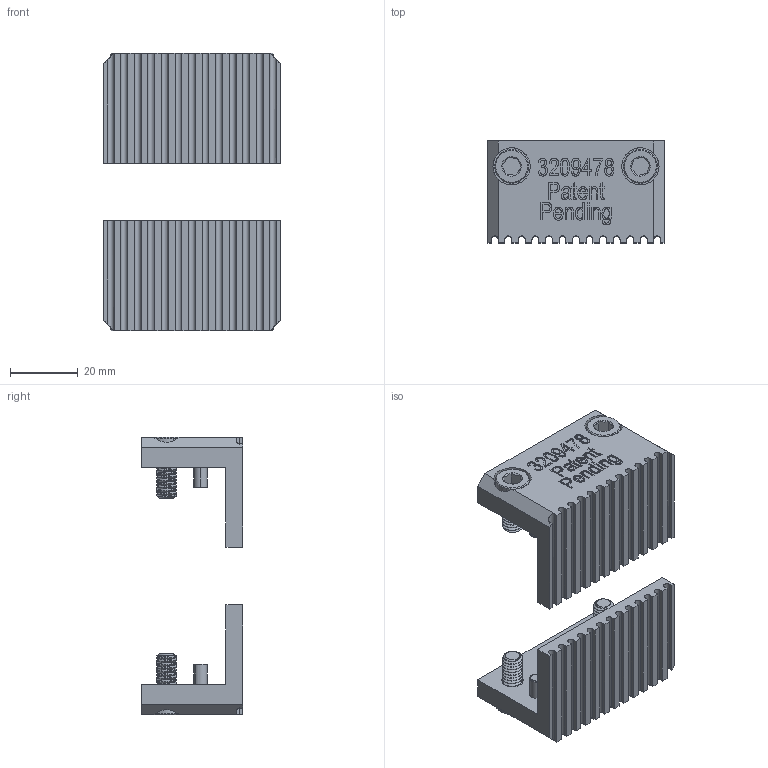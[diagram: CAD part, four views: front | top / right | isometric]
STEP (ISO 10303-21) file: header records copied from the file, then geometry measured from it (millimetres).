
FILE_DESCRIPTION (( 'STEP AP203' ), '1' );
FILE_NAME ('88001555.STEP', '2025-12-08T22:44:34', ( '' ), ( '' ), 'SwSTEP 2.0', 'SolidWorks 2024', '' );
FILE_SCHEMA (( 'CONFIG_CONTROL_DESIGN' ));
Length unit declared in the file: millimetre
Products named in the file (4): 3209478; 88001555; 180903; 320292-1
Assembly tree (10 placements, depth 2):
  88001555
    180903  x4
    320292-1  x4
    3209478  x2
Bounding box: 52 x 30 x 82 mm (x, y, z)
Volume: 36958.3 mm3; surface area: 21502.3 mm2
Topology: 10 solids, 10 shells, 1110 faces, 2952 edges, 1932 vertices
Faces by surface type: plane 470, bspline 310, cylinder 258, cone 72
Entity records: 24321 total; most frequent: CARTESIAN_POINT 13270, ORIENTED_EDGE 2506, DIRECTION 1588, EDGE_CURVE 1253, VERTEX_POINT 827, LINE 766, VECTOR 766, EDGE_LOOP 510
